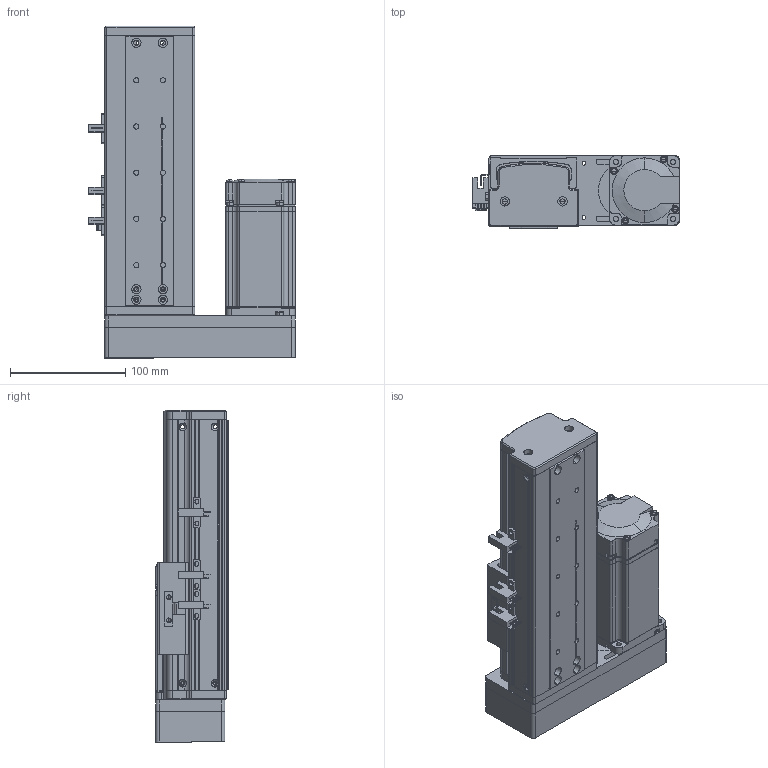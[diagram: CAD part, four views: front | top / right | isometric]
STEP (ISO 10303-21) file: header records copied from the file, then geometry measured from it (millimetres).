
FILE_DESCRIPTION (( 'STEP AP214' ), '1' );
FILE_NAME ('KSD75S-S80-ML-CM.STEP', '2019-10-18T06:53:27', ( '微软用户' ), ( '微软中国' ), 'SwSTEP 2.0', 'SolidWorks 2014', '' );
FILE_SCHEMA (( 'AUTOMOTIVE_DESIGN' ));
Length unit declared in the file: millimetre
Products named in the file (13): KSD75S-S80-ML-CM; MGW15H賑寢80俴最; MGW15H賑寢80俴最 ; 75遵賑雄釱; 75遵耀郪耜啣-80俴最; 75裔啣-80俴最; ヶ傷啣; 綴傷啣 ; U倰嫖萇EEㄜSX672; 覜茼え100遵圉猾敕; 75宽马达安装板连板左右折丝杆; 75宽模组保护罩左右折; MHMD042G1CA_2_03
Assembly tree (15 placements, depth 3):
  KSD75S-S80-ML-CM
    MGW15H賑寢80俴最 
      MGW15H賑寢80俴最
    75遵賑雄釱
    75遵耀郪耜啣-80俴最  x2
    75裔啣-80俴最
    ヶ傷啣
    綴傷啣 
    U倰嫖萇EEㄜSX672  x3
    覜茼え100遵圉猾敕
    75宽马达安装板连板左右折丝杆
    75宽模组保护罩左右折
    MHMD042G1CA_2_03
Bounding box: 178.7 x 63 x 287.5 mm (x, y, z)
Volume: 538574.4 mm3; surface area: 336315.7 mm2
Topology: 13 solids, 14 shells, 1383 faces, 3946 edges, 2573 vertices
Faces by surface type: cylinder 627, plane 609, cone 129, bspline 18
Entity records: 44454 total; most frequent: CARTESIAN_POINT 8518, DIRECTION 6524, ORIENTED_EDGE 6172, EDGE_CURVE 3157, AXIS2_PLACEMENT_3D 2358, VERTEX_POINT 2091, LINE 1808, VECTOR 1808
